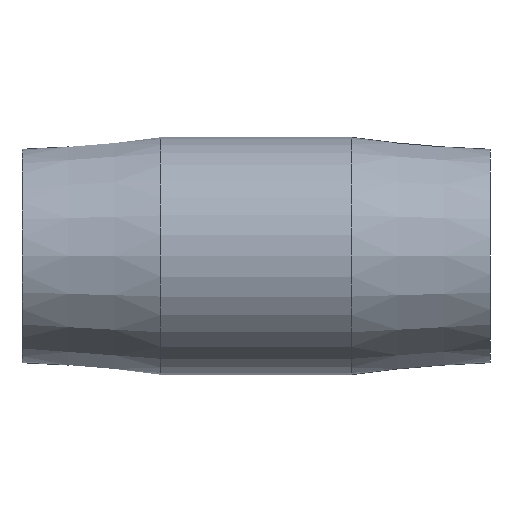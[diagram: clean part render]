
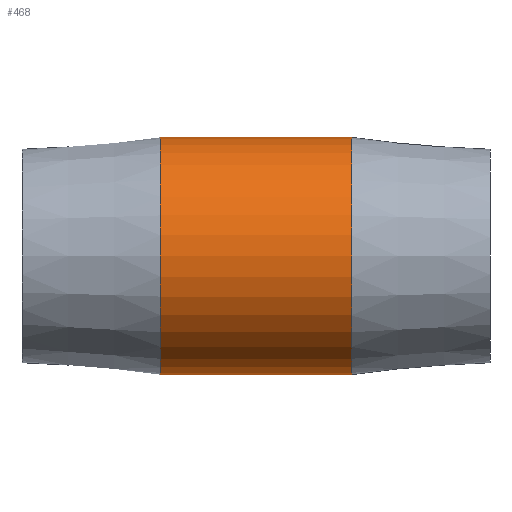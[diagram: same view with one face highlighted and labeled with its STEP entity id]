
A CAD part, front view. The second image highlights one B-rep face of the part: STEP entity #468.
In plain terms, the highlighted cylindrical face has radius 18 mm (diameter 36 mm), a full revolution.
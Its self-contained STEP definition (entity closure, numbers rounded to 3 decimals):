
#44=LINE('',#877,#61);
#61=VECTOR('',#639,18.);
#76=CYLINDRICAL_SURFACE('',#528,18.);
#94=FACE_OUTER_BOUND('',#127,.T.);
#127=EDGE_LOOP('',(#350,#351,#352,#353,#354,#355));
#163=CIRCLE('',#529,18.);
#164=CIRCLE('',#530,18.);
#165=CIRCLE('',#531,18.);
#166=CIRCLE('',#532,18.);
#212=VERTEX_POINT('',#872);
#213=VERTEX_POINT('',#873);
#214=VERTEX_POINT('',#876);
#215=VERTEX_POINT('',#878);
#267=EDGE_CURVE('',#212,#213,#163,.T.);
#268=EDGE_CURVE('',#213,#212,#164,.T.);
#269=EDGE_CURVE('',#213,#214,#44,.T.);
#270=EDGE_CURVE('',#214,#215,#165,.T.);
#271=EDGE_CURVE('',#215,#214,#166,.T.);
#350=ORIENTED_EDGE('',*,*,#267,.F.);
#351=ORIENTED_EDGE('',*,*,#268,.F.);
#352=ORIENTED_EDGE('',*,*,#269,.T.);
#353=ORIENTED_EDGE('',*,*,#270,.T.);
#354=ORIENTED_EDGE('',*,*,#271,.T.);
#355=ORIENTED_EDGE('',*,*,#269,.F.);
#468=ADVANCED_FACE('',(#94),#76,.T.);
#528=AXIS2_PLACEMENT_3D('',#871,#633,#634);
#529=AXIS2_PLACEMENT_3D('',#874,#635,#636);
#530=AXIS2_PLACEMENT_3D('',#875,#637,#638);
#531=AXIS2_PLACEMENT_3D('',#879,#640,#641);
#532=AXIS2_PLACEMENT_3D('',#880,#642,#643);
#633=DIRECTION('center_axis',(1.,0.,0.));
#634=DIRECTION('ref_axis',(0.,1.,0.));
#635=DIRECTION('center_axis',(1.,0.,0.));
#636=DIRECTION('ref_axis',(0.,0.,-1.));
#637=DIRECTION('center_axis',(1.,0.,0.));
#638=DIRECTION('ref_axis',(0.,0.,-1.));
#639=DIRECTION('',(-1.,0.,0.));
#640=DIRECTION('center_axis',(1.,0.,0.));
#641=DIRECTION('ref_axis',(0.,0.,-1.));
#642=DIRECTION('center_axis',(1.,0.,0.));
#643=DIRECTION('ref_axis',(0.,0.,-1.));
#871=CARTESIAN_POINT('Origin',(7.437,0.,0.));
#872=CARTESIAN_POINT('',(14.5,18.,0.));
#873=CARTESIAN_POINT('',(14.5,-18.,0.));
#874=CARTESIAN_POINT('Origin',(14.5,0.,0.));
#875=CARTESIAN_POINT('Origin',(14.5,0.,0.));
#876=CARTESIAN_POINT('',(-14.5,-18.,0.));
#877=CARTESIAN_POINT('',(7.437,-18.,0.));
#878=CARTESIAN_POINT('',(-14.5,18.,0.));
#879=CARTESIAN_POINT('Origin',(-14.5,0.,0.));
#880=CARTESIAN_POINT('Origin',(-14.5,0.,0.));
